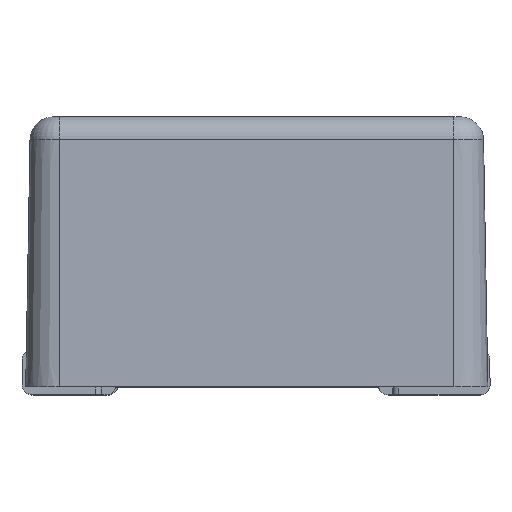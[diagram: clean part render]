
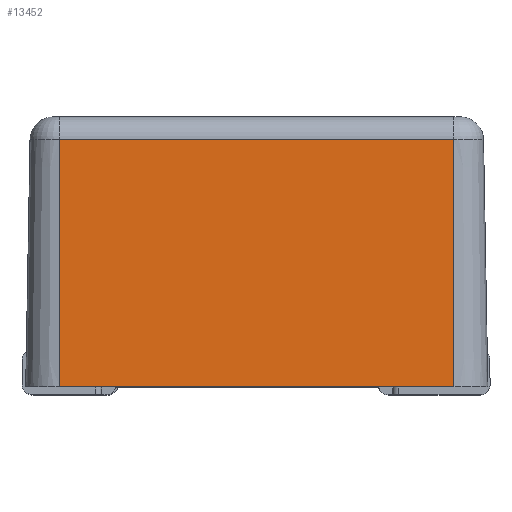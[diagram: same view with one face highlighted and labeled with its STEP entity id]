
A CAD part, top view. The second image highlights one B-rep face of the part: STEP entity #13452.
In plain terms, the highlighted planar face has unit normal (0, 0.018, 1) as drawn and (0, 0.017, -1) by its records, which use the part's own axes.
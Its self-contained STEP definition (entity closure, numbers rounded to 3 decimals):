
#1176=ORIENTED_EDGE('',*,*,#3804,.T.);
#1177=ORIENTED_EDGE('',*,*,#3836,.F.);
#1178=ORIENTED_EDGE('',*,*,#3837,.F.);
#1179=ORIENTED_EDGE('',*,*,#3838,.F.);
#3804=EDGE_CURVE('',#5204,#5203,#6268,.T.);
#3836=EDGE_CURVE('',#5214,#5203,#6293,.T.);
#3837=EDGE_CURVE('',#5215,#5214,#6294,.T.);
#3838=EDGE_CURVE('',#5204,#5215,#6295,.T.);
#5203=VERTEX_POINT('',#18263);
#5204=VERTEX_POINT('',#18265);
#5214=VERTEX_POINT('',#18340);
#5215=VERTEX_POINT('',#18344);
#6268=LINE('',#18264,#7583);
#6293=LINE('',#18341,#7608);
#6294=LINE('',#18343,#7609);
#6295=LINE('',#18345,#7610);
#7583=VECTOR('',#15309,1000.);
#7608=VECTOR('',#15416,1000.);
#7609=VECTOR('',#15419,1000.);
#7610=VECTOR('',#15420,1000.);
#8700=EDGE_LOOP('',(#1176,#1177,#1178,#1179));
#9277=FACE_BOUND('',#8700,.T.);
#9820=PLANE('',#14076);
#13452=ADVANCED_FACE('',(#9277),#9820,.F.);
#14076=AXIS2_PLACEMENT_3D('',#18342,#15417,#15418);
#15309=DIRECTION('',(-1.,0.,0.));
#15416=DIRECTION('',(0.,-1.,-0.017));
#15417=DIRECTION('',(0.,-0.017,1.));
#15418=DIRECTION('',(-1.,0.,0.));
#15419=DIRECTION('',(-1.,0.,0.));
#15420=DIRECTION('',(0.,1.,0.017));
#18263=CARTESIAN_POINT('',(-10.15,-10.,-10.45));
#18264=CARTESIAN_POINT('',(10.15,-10.,-10.45));
#18265=CARTESIAN_POINT('',(10.15,-10.,-10.45));
#18340=CARTESIAN_POINT('',(-10.15,2.721,-10.228));
#18341=CARTESIAN_POINT('',(-10.15,1.721,-10.245));
#18342=CARTESIAN_POINT('',(-12.346,-10.,-10.45));
#18343=CARTESIAN_POINT('',(10.15,2.721,-10.228));
#18344=CARTESIAN_POINT('',(10.15,2.721,-10.228));
#18345=CARTESIAN_POINT('',(10.15,-10.,-10.45));
